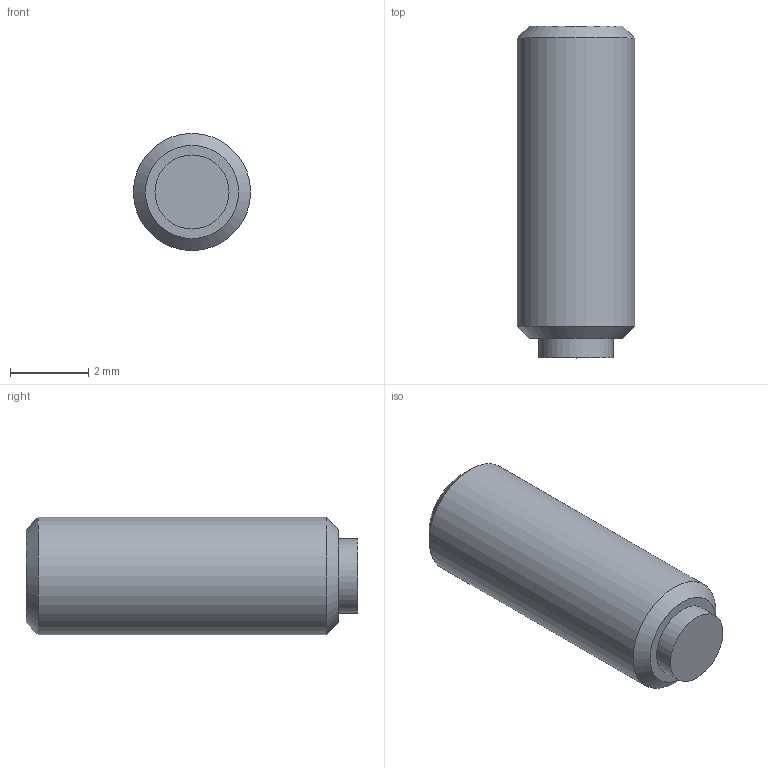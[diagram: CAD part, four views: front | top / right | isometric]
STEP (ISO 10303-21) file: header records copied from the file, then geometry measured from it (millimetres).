
FILE_DESCRIPTION( ( 'STEP AP203' ), '1' );
FILE_NAME( 'C:/Temp/Ganter_Step_05_03_2020/data/3_2/gn913_3/Grub screw GN 913.3-M3-8-MS.stp', '2020-03-13T05:35:43', ( 'License CC BY-ND 4.0' ), ( 'CADENAS' ), ' ', 'PARTsolutions', ' ' );
FILE_SCHEMA( ( 'CONFIG_CONTROL_DESIGN' ) );
Length unit declared in the file: millimetre
Products named in the file (1): _Grub screw GN 913.3-M3-8-MS
Bounding box: 3 x 8.5 x 3 mm (x, y, z)
Volume: 54.2 mm3; surface area: 96.7 mm2
Topology: 1 solids, 1 shells, 14 faces, 28 edges, 18 vertices
Faces by surface type: plane 10, cylinder 2, cone 2
Full cylindrical faces by diameter (mm): 1.9 x1, 3 x1
Entity records: 386 total; most frequent: DIRECTION 60, CARTESIAN_POINT 57, ORIENTED_EDGE 48, EDGE_CURVE 24, AXIS2_PLACEMENT_3D 21, EDGE_LOOP 20, VERTEX_POINT 18, LINE 18
